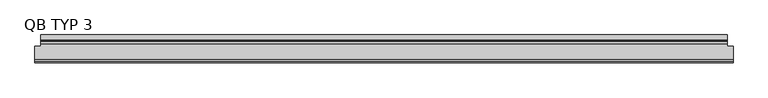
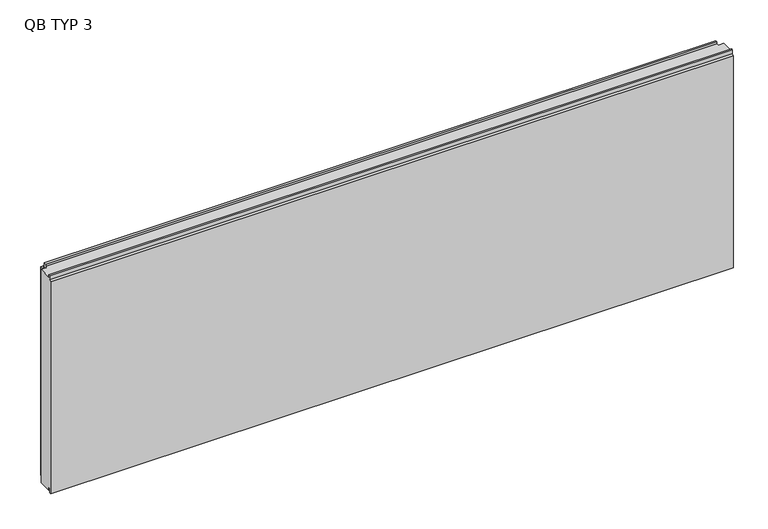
"""IFC4 building model written with IfcOpenShell, lengths in millimetres: plate geometry, TR_C_H_QBISS_Panel : QB TYP 3."""

from ifc_helpers import new_model, si_unit, frame, origin, place, context, project, spatial, polyline, outline, extrude, faceted_brep, source, transform, mapped, element, save


def qb_typ_3_48853b8a(model_context):
    return source(origin(), model_context, "Body", "SolidModel", [
        faceted_brep([(1512.4, -108.0, 1000.0), (1512.4, -108.0, 1010.0), (1512.4, -114.0, 1010.0), (1512.4, -114.0, 992.0), (1512.4, -120.0, 986.0), (1512.4, -120.0, -8.0), (1512.4, -114.0, -8.0), (1512.4, -114.0, 13.0), (1512.4, -108.0, 13.0), (1512.4, -108.0, 0.0), (1512.4, -49.0, 0.0), (1512.4, -49.0, 1000.0), (-1512.4, -108.0, 0.0), (-1512.4, -108.0, 13.0), (-1512.4, -114.0, 13.0), (-1512.4, -114.0, -8.0), (-1512.4, -120.0, -8.0), (-1512.4, -120.0, 986.0), (-1512.4, -114.0, 992.0), (-1512.4, -114.0, 1010.0), (-1512.4, -108.0, 1010.0), (-1512.4, -108.0, 1000.0), (-1512.4, -49.0, 1000.0), (-1512.4, -49.0, 0.0), (-1487.3, -49.0, 0.0), (-1487.3, -39.0, 0.0), (1487.3, -39.0, 0.0), (1487.3, -49.0, 0.0), (-1487.3, -39.0, 13.0), (1487.3, -39.0, 13.0), (-1487.3, -29.0, 13.0), (1487.3, -29.0, 13.0), (-1487.3, -29.0, -4.0), (1487.3, -29.0, -4.0), (-1487.3, 0.0, -4.0), (1487.3, 0.0, -4.0), (-1487.3, 0.0, 973.0), (1487.3, 0.0, 973.0), (-1487.3, -29.0, 973.0), (1487.3, -29.0, 973.0), (-1487.3, -29.0, 1010.0), (1487.3, -29.0, 1010.0), (-1487.3, -39.0, 1010.0), (1487.3, -39.0, 1010.0), (-1487.3, -39.0, 1000.0), (1487.3, -39.0, 1000.0), (1487.3, -49.0, 1000.0), (-1487.3, -49.0, 1000.0)], [[[0, 1, 2, 3, 4, 5, 6, 7, 8, 9, 10, 11]], [[12, 13, 14, 15, 16, 17, 18, 19, 20, 21, 22, 23]], [[9, 12, 23, 24, 25, 26, 27, 10]], [[26, 25, 28, 29]], [[29, 28, 30, 31]], [[31, 30, 32, 33]], [[33, 32, 34, 35]], [[35, 34, 36, 37]], [[37, 36, 38, 39]], [[39, 38, 40, 41]], [[41, 40, 42, 43]], [[43, 42, 44, 45]], [[21, 0, 11, 46, 45, 44, 47, 22]], [[1, 0, 21, 20]], [[2, 1, 20, 19]], [[3, 2, 19, 18]], [[4, 3, 18, 17]], [[5, 4, 17, 16]], [[6, 5, 16, 15]], [[7, 6, 15, 14]], [[8, 7, 14, 13]], [[9, 8, 13, 12]], [[47, 24, 23, 22]], [[24, 47, 44, 42, 40, 38, 36, 34, 32, 30, 28, 25]], [[46, 27, 26, 29, 31, 33, 35, 37, 39, 41, 43, 45]], [[27, 46, 11, 10]]]),
        extrude(outline(polyline([(-24.0, 994.5), (-24.0, 974.5), (-25.4998317, 974.5), (-25.4998317, 981.3023028), (-27.9998293, 981.3023028), (-27.9998293, 980.5023028), (-28.7998428, 980.5023028), (-28.7998428, 988.5023593), (-27.9998293, 988.5023593), (-27.9998293, 987.7023593), (-25.4998317, 987.7023593), (-25.4998317, 994.5), (-24.0, 994.5)])), frame((-1487.3, 0.0, 0.0), z_axis=(1.0, 0.0, 0.0), x_axis=(0.0, 1.0, 0.0)), (0.0, 0.0, 1.0), 2974.6),
    ])


if __name__ == "__main__":
    model = new_model("IFC4")
    model_context = context("Model", 3, world=origin())
    ifc_project = project(units=[si_unit("LENGTHUNIT", "METRE", prefix="MILLI")], contexts=[model_context])
    site = spatial("IfcSite", under=ifc_project)
    building = spatial("IfcBuilding", under=site)
    placement = place(None, origin())
    qb_typ_3_shape = qb_typ_3_48853b8a(model_context)
    element("IfcPlate", 1, ObjectType="TR_C_H_QBISS_Panel : QB TYP 3", at=placement, inside=building, context=model_context, shape_type="MappedRepresentation", body=[
        mapped(qb_typ_3_shape, transform((0.0, 0.0, 0.0), x_axis=(1.0, 0.0, 0.0), y_axis=(0.0, 1.0, 0.0), z_axis=(0.0, 0.0, 1.0))),
    ])
    save(model, "model.ifc")
